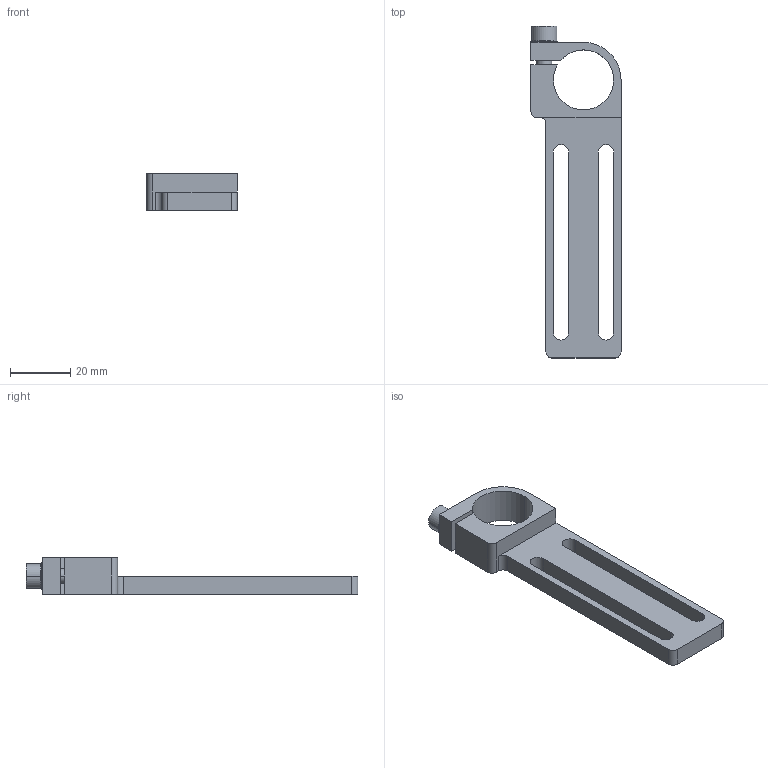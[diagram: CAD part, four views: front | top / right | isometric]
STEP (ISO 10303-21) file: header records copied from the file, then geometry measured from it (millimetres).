
FILE_DESCRIPTION (( 'STEP AP203' ), '1' );
FILE_NAME ('SMBE1-2060.STEP', '2024-08-13T06:12:57', ( '' ), ( '' ), 'SwSTEP 2.0', 'SolidWorks 2022', '' );
FILE_SCHEMA (( 'CONFIG_CONTROL_DESIGN' ));
Length unit declared in the file: millimetre
Products named in the file (5): PTS-M5.STEP; PTC-M5L14.STEP; SMBE1-2060-T.STEP; SMBE1-2060; SMBE1-2060.STEP
Assembly tree (4 placements, depth 3):
  SMBE1-2060
    SMBE1-2060-T.STEP
      SMBE1-2060.STEP
      PTC-M5L14.STEP
      PTS-M5.STEP
Bounding box: 30 x 110.45 x 12 mm (x, y, z)
Volume: 12910.3 mm3; surface area: 9091.8 mm2
Topology: 3 solids, 3 shells, 217 faces, 624 edges, 414 vertices
Faces by surface type: plane 187, cylinder 24, cone 6
Entity records: 7707 total; most frequent: DIRECTION 1288, CARTESIAN_POINT 1263, ORIENTED_EDGE 1248, EDGE_CURVE 624, AXIS2_PLACEMENT_3D 439, VERTEX_POINT 414, VECTOR 410, LINE 410
